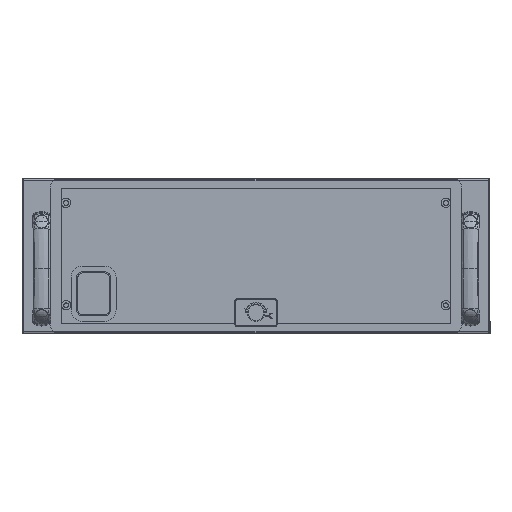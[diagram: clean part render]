
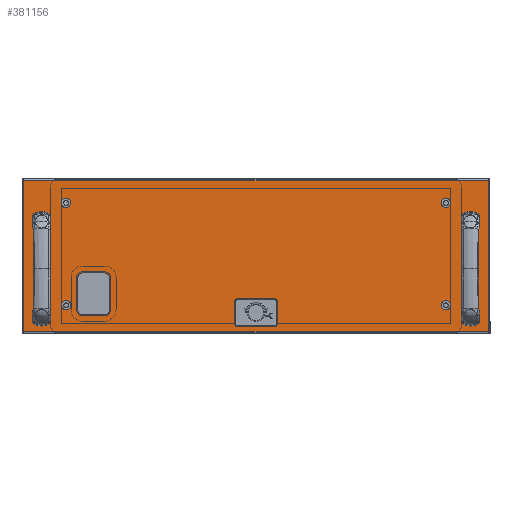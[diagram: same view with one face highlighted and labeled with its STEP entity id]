
A CAD part, front view. The second image highlights one B-rep face of the part: STEP entity #381156.
In plain terms, the highlighted planar face has unit normal (0, -1, 0) as drawn and (0, 0, 1) by its records, which use the part's own axes.
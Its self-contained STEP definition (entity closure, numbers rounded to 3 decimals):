
#378681=CARTESIAN_POINT(' ',(2.3,194.7,0.));
#378682=VERTEX_POINT(' ',#378681);
#378696=CARTESIAN_POINT(' ',(2.3,194.7,0.));
#378701=DIRECTION(' ',(1.,0.,0.));
#378706=VECTOR(' ',#378701,1.);
#378711=LINE('',#378696,#378706);
#378716=CARTESIAN_POINT(' ',(591.7,194.7,0.));
#378717=VERTEX_POINT(' ',#378716);
#378721=EDGE_CURVE(' ',#378682,#378717,#378711,.T.);
#380256=DIRECTION(' ',(-0.,-0.,1.));
#380261=CARTESIAN_POINT(' ',(591.7,2.3,0.));
#380266=DIRECTION(' ',(0.,1.,0.));
#380271=AXIS2_PLACEMENT_3D(' ',#380261,#380256,#380266);
#380276=PLANE('NONE',#380271);
#380281=CARTESIAN_POINT(' ',(591.7,194.7,0.));
#380286=DIRECTION(' ',(0.,-1.,0.));
#380291=VECTOR(' ',#380286,1.);
#380296=LINE('',#380281,#380291);
#380301=CARTESIAN_POINT(' ',(591.7,2.3,0.));
#380302=VERTEX_POINT(' ',#380301);
#380306=EDGE_CURVE(' ',#378717,#380302,#380296,.T.);
#380311=ORIENTED_EDGE(' ',*,*,#380306,.F.);
#380316=ORIENTED_EDGE(' ',*,*,#378721,.F.);
#380321=CARTESIAN_POINT(' ',(2.3,2.3,0.));
#380326=DIRECTION(' ',(0.,1.,0.));
#380331=VECTOR(' ',#380326,1.);
#380336=LINE('',#380321,#380331);
#380341=CARTESIAN_POINT(' ',(2.3,2.3,0.));
#380342=VERTEX_POINT(' ',#380341);
#380346=EDGE_CURVE(' ',#380342,#378682,#380336,.T.);
#380351=ORIENTED_EDGE(' ',*,*,#380346,.F.);
#380356=CARTESIAN_POINT(' ',(591.7,2.3,0.));
#380361=DIRECTION(' ',(-1.,0.,0.));
#380366=VECTOR(' ',#380361,1.);
#380371=LINE('',#380356,#380366);
#380376=EDGE_CURVE(' ',#380302,#380342,#380371,.T.);
#380381=ORIENTED_EDGE(' ',*,*,#380376,.F.);
#380386=EDGE_LOOP(' ',(#380311,#380316,#380351,#380381));
#380391=FACE_OUTER_BOUND(' ',#380386,.T.);
#380396=CARTESIAN_POINT(' ',(104.85,30.,0.));
#380401=DIRECTION(' ',(0.,-0.,1.));
#380406=DIRECTION(' ',(0.,-1.,0.));
#380411=AXIS2_PLACEMENT_3D(' ',#380396,#380401,#380406);
#380416=CIRCLE('',#380411,6.);
#380421=CARTESIAN_POINT(' ',(104.85,24.,0.));
#380422=VERTEX_POINT(' ',#380421);
#380426=CARTESIAN_POINT(' ',(110.85,30.,0.));
#380427=VERTEX_POINT(' ',#380426);
#380431=EDGE_CURVE(' ',#380422,#380427,#380416,.T.);
#380436=ORIENTED_EDGE(' ',*,*,#380431,.F.);
#380441=CARTESIAN_POINT(' ',(76.85,24.,0.));
#380446=DIRECTION(' ',(1.,0.,0.));
#380451=VECTOR(' ',#380446,1.);
#380456=LINE('',#380441,#380451);
#380461=CARTESIAN_POINT(' ',(76.85,24.,0.));
#380462=VERTEX_POINT(' ',#380461);
#380466=EDGE_CURVE(' ',#380462,#380422,#380456,.T.);
#380471=ORIENTED_EDGE(' ',*,*,#380466,.F.);
#380476=CARTESIAN_POINT(' ',(76.85,30.,0.));
#380481=DIRECTION(' ',(-0.,-0.,1.));
#380486=DIRECTION(' ',(-1.,0.,0.));
#380491=AXIS2_PLACEMENT_3D(' ',#380476,#380481,#380486);
#380496=CIRCLE('',#380491,6.);
#380501=CARTESIAN_POINT(' ',(70.85,30.,0.));
#380502=VERTEX_POINT(' ',#380501);
#380506=EDGE_CURVE(' ',#380502,#380462,#380496,.T.);
#380511=ORIENTED_EDGE(' ',*,*,#380506,.F.);
#380516=CARTESIAN_POINT(' ',(70.85,71.,0.));
#380521=DIRECTION(' ',(0.,-1.,0.));
#380526=VECTOR(' ',#380521,1.);
#380531=LINE('',#380516,#380526);
#380536=CARTESIAN_POINT(' ',(70.85,71.,0.));
#380537=VERTEX_POINT(' ',#380536);
#380541=EDGE_CURVE(' ',#380537,#380502,#380531,.T.);
#380546=ORIENTED_EDGE(' ',*,*,#380541,.F.);
#380551=CARTESIAN_POINT(' ',(76.85,71.,0.));
#380556=DIRECTION(' ',(0.,0.,1.));
#380561=DIRECTION(' ',(0.,1.,0.));
#380566=AXIS2_PLACEMENT_3D(' ',#380551,#380556,#380561);
#380571=CIRCLE('',#380566,6.);
#380576=CARTESIAN_POINT(' ',(76.85,77.,0.));
#380577=VERTEX_POINT(' ',#380576);
#380581=EDGE_CURVE(' ',#380577,#380537,#380571,.T.);
#380586=ORIENTED_EDGE(' ',*,*,#380581,.F.);
#380591=CARTESIAN_POINT(' ',(104.85,77.,0.));
#380596=DIRECTION(' ',(-1.,0.,0.));
#380601=VECTOR(' ',#380596,1.);
#380606=LINE('',#380591,#380601);
#380611=CARTESIAN_POINT(' ',(104.85,77.,0.));
#380612=VERTEX_POINT(' ',#380611);
#380616=EDGE_CURVE(' ',#380612,#380577,#380606,.T.);
#380621=ORIENTED_EDGE(' ',*,*,#380616,.F.);
#380626=CARTESIAN_POINT(' ',(104.85,71.,0.));
#380631=DIRECTION(' ',(0.,0.,1.));
#380636=DIRECTION(' ',(1.,0.,0.));
#380641=AXIS2_PLACEMENT_3D(' ',#380626,#380631,#380636);
#380646=CIRCLE('',#380641,6.);
#380651=CARTESIAN_POINT(' ',(110.85,71.,0.));
#380652=VERTEX_POINT(' ',#380651);
#380656=EDGE_CURVE(' ',#380652,#380612,#380646,.T.);
#380661=ORIENTED_EDGE(' ',*,*,#380656,.F.);
#380666=CARTESIAN_POINT(' ',(110.85,30.,0.));
#380671=DIRECTION(' ',(0.,1.,0.));
#380676=VECTOR(' ',#380671,1.);
#380681=LINE('',#380666,#380676);
#380686=EDGE_CURVE(' ',#380427,#380652,#380681,.T.);
#380691=ORIENTED_EDGE(' ',*,*,#380686,.F.);
#380696=EDGE_LOOP(' ',(#380436,#380471,#380511,#380546,#380586,#380621,#380661,#380691));
#380701=FACE_BOUND(' ',#380696,.T.);
#380706=CARTESIAN_POINT(' ',(297.,26.5,0.));
#380711=DIRECTION(' ',(0.,-0.,1.));
#380716=DIRECTION(' ',(-1.,0.,0.));
#380721=AXIS2_PLACEMENT_3D(' ',#380706,#380711,#380716);
#380726=CIRCLE('',#380721,10.);
#380731=CARTESIAN_POINT(' ',(287.,26.5,0.));
#380732=VERTEX_POINT(' ',#380731);
#380736=CARTESIAN_POINT(' ',(307.,26.5,0.));
#380737=VERTEX_POINT(' ',#380736);
#380741=EDGE_CURVE(' ',#380732,#380737,#380726,.T.);
#380746=ORIENTED_EDGE(' ',*,*,#380741,.F.);
#380751=CARTESIAN_POINT(' ',(297.,26.5,0.));
#380756=DIRECTION(' ',(0.,0.,1.));
#380761=DIRECTION(' ',(1.,0.,0.));
#380766=AXIS2_PLACEMENT_3D(' ',#380751,#380756,#380761);
#380771=CIRCLE('',#380766,10.);
#380776=EDGE_CURVE(' ',#380737,#380732,#380771,.T.);
#380781=ORIENTED_EDGE(' ',*,*,#380776,.F.);
#380786=EDGE_LOOP(' ',(#380746,#380781));
#380791=FACE_BOUND(' ',#380786,.T.);
#380796=CARTESIAN_POINT(' ',(569.,23.5,0.));
#380801=DIRECTION(' ',(0.,0.,1.));
#380806=DIRECTION(' ',(0.,1.,0.));
#380811=AXIS2_PLACEMENT_3D(' ',#380796,#380801,#380806);
#380816=CIRCLE('',#380811,3.75);
#380821=CARTESIAN_POINT(' ',(569.,27.25,0.));
#380822=VERTEX_POINT(' ',#380821);
#380826=CARTESIAN_POINT(' ',(569.,19.75,0.));
#380827=VERTEX_POINT(' ',#380826);
#380831=EDGE_CURVE(' ',#380822,#380827,#380816,.T.);
#380836=ORIENTED_EDGE(' ',*,*,#380831,.F.);
#380841=CARTESIAN_POINT(' ',(569.,23.5,0.));
#380846=DIRECTION(' ',(0.,0.,1.));
#380851=DIRECTION(' ',(0.,-1.,0.));
#380856=AXIS2_PLACEMENT_3D(' ',#380841,#380846,#380851);
#380861=CIRCLE('',#380856,3.75);
#380866=EDGE_CURVE(' ',#380827,#380822,#380861,.T.);
#380871=ORIENTED_EDGE(' ',*,*,#380866,.F.);
#380876=EDGE_LOOP(' ',(#380836,#380871));
#380881=FACE_BOUND(' ',#380876,.T.);
#380886=CARTESIAN_POINT(' ',(25.,143.5,0.));
#380891=DIRECTION(' ',(0.,0.,1.));
#380896=DIRECTION(' ',(0.,1.,0.));
#380901=AXIS2_PLACEMENT_3D(' ',#380886,#380891,#380896);
#380906=CIRCLE('',#380901,3.75);
#380911=CARTESIAN_POINT(' ',(25.,147.25,0.));
#380912=VERTEX_POINT(' ',#380911);
#380916=CARTESIAN_POINT(' ',(25.,139.75,0.));
#380917=VERTEX_POINT(' ',#380916);
#380921=EDGE_CURVE(' ',#380912,#380917,#380906,.T.);
#380926=ORIENTED_EDGE(' ',*,*,#380921,.F.);
#380931=CARTESIAN_POINT(' ',(25.,143.5,0.));
#380936=DIRECTION(' ',(0.,0.,1.));
#380941=DIRECTION(' ',(0.,-1.,0.));
#380946=AXIS2_PLACEMENT_3D(' ',#380931,#380936,#380941);
#380951=CIRCLE('',#380946,3.75);
#380956=EDGE_CURVE(' ',#380917,#380912,#380951,.T.);
#380961=ORIENTED_EDGE(' ',*,*,#380956,.F.);
#380966=EDGE_LOOP(' ',(#380926,#380961));
#380971=FACE_BOUND(' ',#380966,.T.);
#380976=CARTESIAN_POINT(' ',(25.,23.5,0.));
#380981=DIRECTION(' ',(0.,0.,1.));
#380986=DIRECTION(' ',(0.,1.,0.));
#380991=AXIS2_PLACEMENT_3D(' ',#380976,#380981,#380986);
#380996=CIRCLE('',#380991,3.75);
#381001=CARTESIAN_POINT(' ',(25.,27.25,0.));
#381002=VERTEX_POINT(' ',#381001);
#381006=CARTESIAN_POINT(' ',(25.,19.75,0.));
#381007=VERTEX_POINT(' ',#381006);
#381011=EDGE_CURVE(' ',#381002,#381007,#380996,.T.);
#381016=ORIENTED_EDGE(' ',*,*,#381011,.F.);
#381021=CARTESIAN_POINT(' ',(25.,23.5,0.));
#381026=DIRECTION(' ',(0.,0.,1.));
#381031=DIRECTION(' ',(0.,-1.,0.));
#381036=AXIS2_PLACEMENT_3D(' ',#381021,#381026,#381031);
#381041=CIRCLE('',#381036,3.75);
#381046=EDGE_CURVE(' ',#381007,#381002,#381041,.T.);
#381051=ORIENTED_EDGE(' ',*,*,#381046,.F.);
#381056=EDGE_LOOP(' ',(#381016,#381051));
#381061=FACE_BOUND(' ',#381056,.T.);
#381066=CARTESIAN_POINT(' ',(569.,143.5,0.));
#381071=DIRECTION(' ',(0.,0.,1.));
#381076=DIRECTION(' ',(0.,1.,0.));
#381081=AXIS2_PLACEMENT_3D(' ',#381066,#381071,#381076);
#381086=CIRCLE('',#381081,3.75);
#381091=CARTESIAN_POINT(' ',(569.,147.25,0.));
#381092=VERTEX_POINT(' ',#381091);
#381096=CARTESIAN_POINT(' ',(569.,139.75,0.));
#381097=VERTEX_POINT(' ',#381096);
#381101=EDGE_CURVE(' ',#381092,#381097,#381086,.T.);
#381106=ORIENTED_EDGE(' ',*,*,#381101,.F.);
#381111=CARTESIAN_POINT(' ',(569.,143.5,0.));
#381116=DIRECTION(' ',(0.,0.,1.));
#381121=DIRECTION(' ',(0.,-1.,0.));
#381126=AXIS2_PLACEMENT_3D(' ',#381111,#381116,#381121);
#381131=CIRCLE('',#381126,3.75);
#381136=EDGE_CURVE(' ',#381097,#381092,#381131,.T.);
#381141=ORIENTED_EDGE(' ',*,*,#381136,.F.);
#381146=EDGE_LOOP(' ',(#381106,#381141));
#381151=FACE_BOUND(' ',#381146,.T.);
#381156=ADVANCED_FACE('NONE',(#380391,#380701,#380791,#380881,#380971,#381061,#381151),#380276,.T.);
